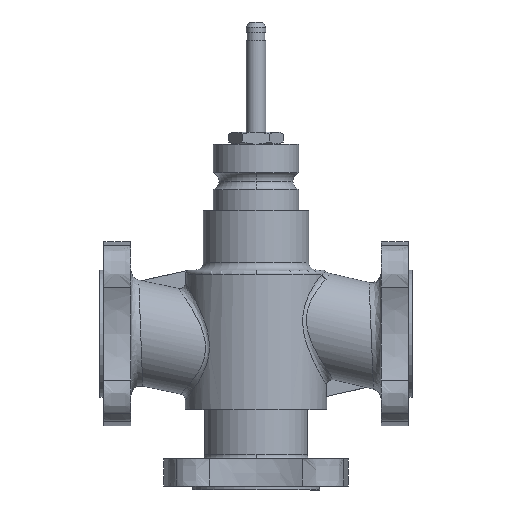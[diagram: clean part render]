
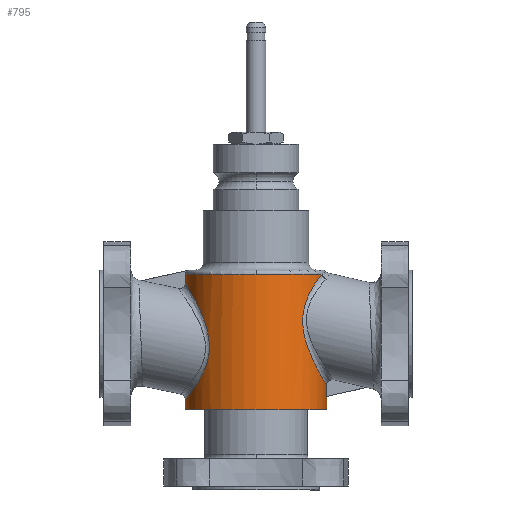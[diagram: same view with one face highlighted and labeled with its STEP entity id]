
A CAD part, left-side view. The second image highlights one B-rep face of the part: STEP entity #795.
In plain terms, the highlighted cylindrical face has radius 36.101 mm (diameter 72.202 mm), a partial arc.
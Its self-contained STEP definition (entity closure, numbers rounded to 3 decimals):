
#114=CYLINDRICAL_SURFACE('',#3059,36.101);
#185=ELLIPSE('',#3058,37.005,36.101);
#193=LINE('',#4250,#339);
#194=LINE('',#4277,#340);
#195=LINE('',#4278,#341);
#196=LINE('',#4282,#342);
#339=VECTOR('',#3381,1.);
#340=VECTOR('',#3382,1.);
#341=VECTOR('',#3383,1.);
#342=VECTOR('',#3386,1.);
#527=FACE_OUTER_BOUND('',#1077,.T.);
#680=B_SPLINE_CURVE_WITH_KNOTS('',3,(#4227,#4228,#4229,#4230,#4231,#4232,
#4233,#4234,#4235,#4236,#4237,#4238,#4239,#4240,#4241,#4242,#4243,#4244,
#4245,#4246),.UNSPECIFIED.,.F.,.F.,(4,2,2,2,2,2,2,2,2,4),(0.,0.11,
0.245,0.36,0.445,0.53,
0.641,0.78,0.96,1.),.UNSPECIFIED.);
#681=B_SPLINE_CURVE_WITH_KNOTS('',3,(#4252,#4253,#4254,#4255,#4256,#4257,
#4258,#4259,#4260,#4261,#4262,#4263,#4264,#4265,#4266,#4267,#4268,#4269,
#4270,#4271,#4272,#4273,#4274,#4275),.UNSPECIFIED.,.F.,.F.,(4,2,2,2,2,2,
2,2,2,2,2,4),(0.,0.077,0.181,0.314,
0.392,0.471,0.582,0.689,
0.823,0.91,0.997,1.),.UNSPECIFIED.);
#795=ADVANCED_FACE('',(#527),#114,.T.);
#1077=EDGE_LOOP('',(#1304,#1305,#1306,#1307,#1308,#1309,#1310,#1311,#1312,
#1313));
#1304=ORIENTED_EDGE('',*,*,#2455,.F.);
#1305=ORIENTED_EDGE('',*,*,#2456,.F.);
#1306=ORIENTED_EDGE('',*,*,#2452,.F.);
#1307=ORIENTED_EDGE('',*,*,#2457,.T.);
#1308=ORIENTED_EDGE('',*,*,#2458,.F.);
#1309=ORIENTED_EDGE('',*,*,#2459,.F.);
#1310=ORIENTED_EDGE('',*,*,#2443,.T.);
#1311=ORIENTED_EDGE('',*,*,#2460,.F.);
#1312=ORIENTED_EDGE('',*,*,#2461,.T.);
#1313=ORIENTED_EDGE('',*,*,#2462,.T.);
#2158=VERTEX_POINT('',#4153);
#2159=VERTEX_POINT('',#4154);
#2167=VERTEX_POINT('',#4220);
#2168=VERTEX_POINT('',#4222);
#2170=VERTEX_POINT('',#4247);
#2171=VERTEX_POINT('',#4248);
#2172=VERTEX_POINT('',#4251);
#2173=VERTEX_POINT('',#4276);
#2174=VERTEX_POINT('',#4279);
#2175=VERTEX_POINT('',#4281);
#2443=EDGE_CURVE('',#2158,#2159,#2876,.T.);
#2452=EDGE_CURVE('',#2167,#2168,#2882,.T.);
#2455=EDGE_CURVE('',#2170,#2171,#680,.T.);
#2456=EDGE_CURVE('',#2168,#2170,#2885,.T.);
#2457=EDGE_CURVE('',#2167,#2172,#193,.T.);
#2458=EDGE_CURVE('',#2173,#2172,#681,.T.);
#2459=EDGE_CURVE('',#2158,#2173,#194,.T.);
#2460=EDGE_CURVE('',#2174,#2159,#195,.T.);
#2461=EDGE_CURVE('',#2174,#2175,#185,.T.);
#2462=EDGE_CURVE('',#2175,#2171,#196,.T.);
#2876=CIRCLE('',#3046,36.101);
#2882=CIRCLE('',#3053,36.101);
#2885=CIRCLE('',#3057,36.101);
#3046=AXIS2_PLACEMENT_3D('',#4152,#3357,#3358);
#3053=AXIS2_PLACEMENT_3D('',#4221,#3371,#3372);
#3057=AXIS2_PLACEMENT_3D('',#4249,#3379,#3380);
#3058=AXIS2_PLACEMENT_3D('',#4280,#3384,#3385);
#3059=AXIS2_PLACEMENT_3D('',#4283,#3387,#3388);
#3357=DIRECTION('',(0.,0.,1.));
#3358=DIRECTION('',(0.,1.,0.));
#3371=DIRECTION('',(0.,0.,1.));
#3372=DIRECTION('',(0.,-1.,0.));
#3379=DIRECTION('',(0.,0.,1.));
#3380=DIRECTION('',(0.,-1.,0.));
#3381=DIRECTION('',(0.,0.,-1.));
#3382=DIRECTION('',(0.,0.,1.));
#3383=DIRECTION('',(0.,0.,-1.));
#3384=DIRECTION('',(0.,-0.22,-0.976));
#3385=DIRECTION('',(0.,0.976,-0.22));
#3386=DIRECTION('',(0.,0.,1.));
#3387=DIRECTION('',(0.,0.,1.));
#3388=DIRECTION('',(0.,-1.,0.));
#4152=CARTESIAN_POINT('',(0.,159.386,-38.948));
#4153=CARTESIAN_POINT('',(0.,195.487,-38.948));
#4154=CARTESIAN_POINT('',(0.,123.285,-38.948));
#4220=CARTESIAN_POINT('',(-2.,195.432,30.538));
#4221=CARTESIAN_POINT('',(0.,159.386,30.538));
#4222=CARTESIAN_POINT('',(-36.101,159.386,30.538));
#4227=CARTESIAN_POINT('',(-12.982,125.704,30.534));
#4228=CARTESIAN_POINT('',(-15.316,126.606,29.342));
#4229=CARTESIAN_POINT('',(-17.44,127.702,27.83));
#4230=CARTESIAN_POINT('',(-21.548,130.297,23.848));
#4231=CARTESIAN_POINT('',(-23.427,131.857,21.196));
#4232=CARTESIAN_POINT('',(-25.895,134.184,15.573));
#4233=CARTESIAN_POINT('',(-26.652,135.032,12.624));
#4234=CARTESIAN_POINT('',(-27.149,135.589,7.332));
#4235=CARTESIAN_POINT('',(-27.111,135.545,4.991));
#4236=CARTESIAN_POINT('',(-26.615,134.992,0.492));
#4237=CARTESIAN_POINT('',(-26.165,134.498,-1.691));
#4238=CARTESIAN_POINT('',(-24.753,133.083,-6.525));
#4239=CARTESIAN_POINT('',(-23.691,132.095,-9.082));
#4240=CARTESIAN_POINT('',(-20.732,129.757,-14.498));
#4241=CARTESIAN_POINT('',(-18.703,128.388,-17.234));
#4242=CARTESIAN_POINT('',(-13.155,125.586,-22.576));
#4243=CARTESIAN_POINT('',(-9.272,124.225,-24.949));
#4244=CARTESIAN_POINT('',(-3.987,123.493,-26.227));
#4245=CARTESIAN_POINT('',(-2.997,123.397,-26.393));
#4246=CARTESIAN_POINT('',(-2.,123.342,-26.488));
#4247=CARTESIAN_POINT('',(-12.976,125.698,30.538));
#4248=CARTESIAN_POINT('',(-2.,123.341,-26.491));
#4249=CARTESIAN_POINT('',(0.,159.386,30.538));
#4250=CARTESIAN_POINT('',(-2.,195.432,30.538));
#4251=CARTESIAN_POINT('',(-2.,195.432,26.025));
#4252=CARTESIAN_POINT('',(0.,195.487,-33.818));
#4253=CARTESIAN_POINT('',(-2.258,195.487,-33.818));
#4254=CARTESIAN_POINT('',(-4.521,195.272,-33.551));
#4255=CARTESIAN_POINT('',(-9.61,194.311,-32.332));
#4256=CARTESIAN_POINT('',(-12.395,193.399,-31.165));
#4257=CARTESIAN_POINT('',(-17.982,190.88,-27.689));
#4258=CARTESIAN_POINT('',(-20.68,189.095,-25.096));
#4259=CARTESIAN_POINT('',(-23.934,186.457,-20.134));
#4260=CARTESIAN_POINT('',(-24.933,185.515,-18.077));
#4261=CARTESIAN_POINT('',(-26.387,184.045,-13.634));
#4262=CARTESIAN_POINT('',(-26.851,183.518,-11.187));
#4263=CARTESIAN_POINT('',(-27.236,183.085,-5.212));
#4264=CARTESIAN_POINT('',(-26.864,183.531,-1.615));
#4265=CARTESIAN_POINT('',(-25.307,185.156,4.908));
#4266=CARTESIAN_POINT('',(-24.151,186.285,7.925));
#4267=CARTESIAN_POINT('',(-20.88,188.928,14.084));
#4268=CARTESIAN_POINT('',(-18.568,190.503,17.16));
#4269=CARTESIAN_POINT('',(-13.913,192.762,21.361));
#4270=CARTESIAN_POINT('',(-11.827,193.576,22.806));
#4271=CARTESIAN_POINT('',(-7.302,194.819,24.981));
#4272=CARTESIAN_POINT('',(-4.794,195.258,25.729));
#4273=CARTESIAN_POINT('',(-2.169,195.422,26.009));
#4274=CARTESIAN_POINT('',(-2.085,195.427,26.017));
#4275=CARTESIAN_POINT('',(-2.,195.432,26.025));
#4276=CARTESIAN_POINT('',(0.,195.487,-33.818));
#4277=CARTESIAN_POINT('',(0.,195.487,-37.948));
#4278=CARTESIAN_POINT('',(0.,123.285,-32.124));
#4279=CARTESIAN_POINT('',(0.,123.285,-32.124));
#4280=CARTESIAN_POINT('',(0.,159.386,-40.253));
#4281=CARTESIAN_POINT('',(-2.,123.341,-32.136));
#4282=CARTESIAN_POINT('',(-2.,123.341,-32.136));
#4283=CARTESIAN_POINT('',(0.,159.386,-3.205));
